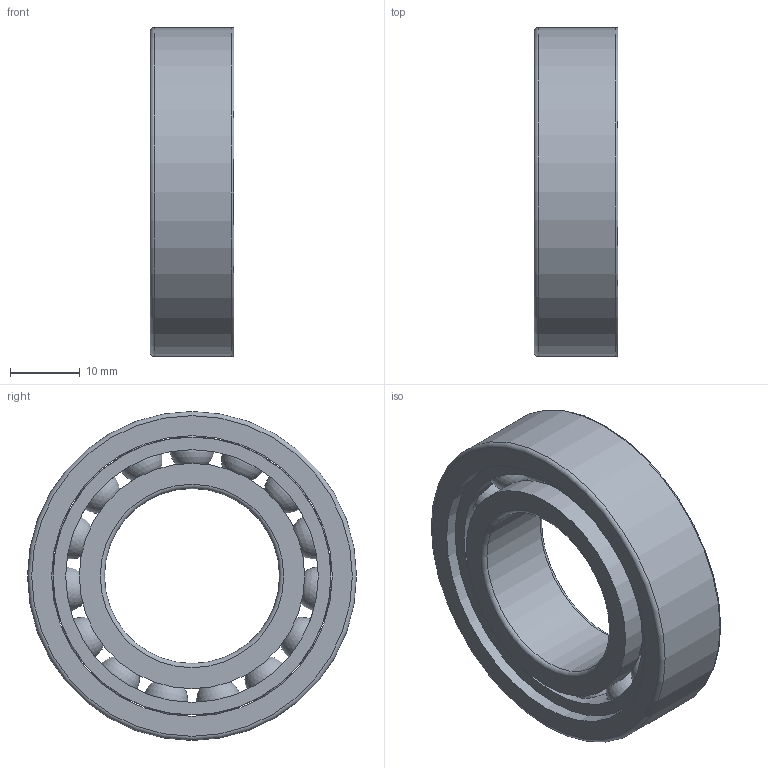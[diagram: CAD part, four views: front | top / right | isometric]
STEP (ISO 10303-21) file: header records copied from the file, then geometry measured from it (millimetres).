
FILE_DESCRIPTION(/* description */ (''),/* implementation_level */ '2;1');
FILE_NAME(/* name */ 'S_6005_TA.step',/* time_stamp */ '2013-03-06T14:43:30+01:00',/* author */ ('Marian'),/* organization */ ('GMN'),/* preprocessor_version */ 'ST-DEVELOPER v11',/* originating_system */ 'SIEMENS UGS NX 6.0',/* authorisation */ '');
FILE_SCHEMA (('CONFIG_CONTROL_DESIGN'));
Length unit declared in the file: millimetre
Products named in the file (1): S_6005_TA
Bounding box: 12 x 47 x 47 mm (x, y, z)
Volume: 10969.6 mm3; surface area: 10962.8 mm2
Topology: 18 solids, 18 shells, 50 faces, 124 edges, 80 vertices
Faces by surface type: cylinder 22, sphere 15, torus 6, plane 6, cone 1
Full cylindrical faces by diameter (mm): 6.55 x15, 25 x1, 32.2 x2, 36.09 x1, 39.7 x1, 40.1 x1, 47 x1
Entity records: 2808 total; most frequent: CARTESIAN_POINT 1876, DIRECTION 142, FACE_BOUND 115, EDGE_LOOP 100, ORIENTED_EDGE 100, AXIS2_PLACEMENT_3D 71, VERTEX_POINT 65, EDGE_CURVE 50
